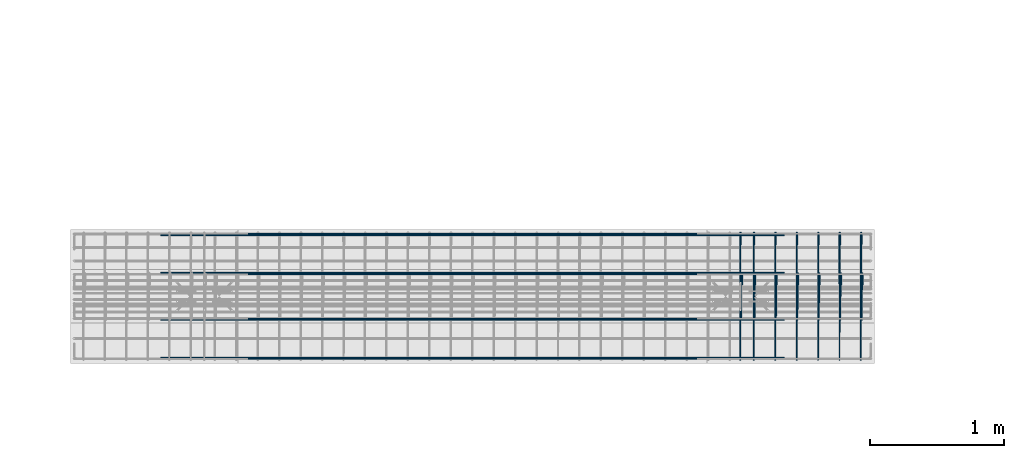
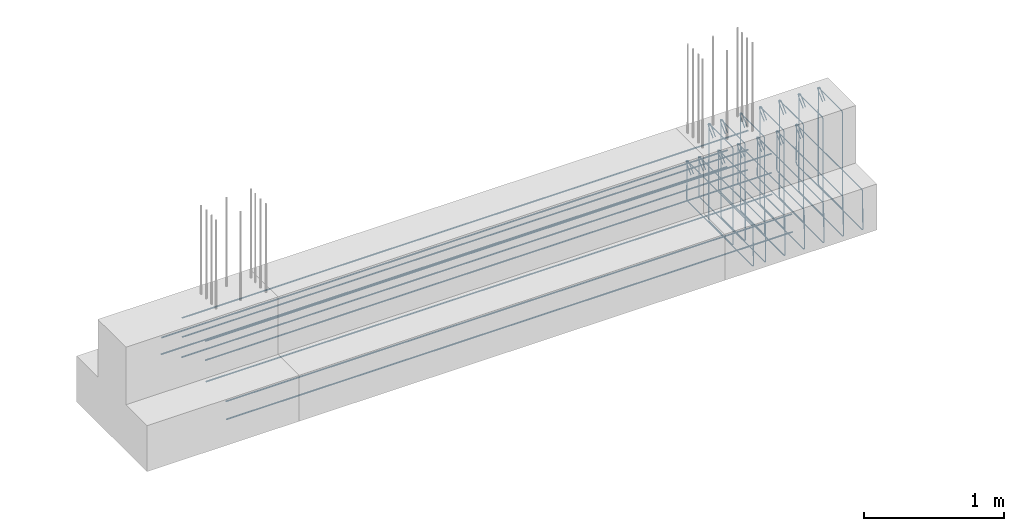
# One storey, part 21 of 23: 2 reinforcing bars.
"""IFC2X3 building model written with IfcOpenShell, lengths in metres."""

from ifc_helpers import new_model, entity, si_unit, direction, frame, origin, place, context, subcontext, project, spatial, shape, source, transform, mapped, element, save


model = new_model("IFC2X3")

# Units and contexts
model_context = context("Model", 3, precision=0.0, world=origin(), true_north=direction((0.0, 1.0)))
plan_context = context("Plan", 3, precision=0.0, world=origin(), true_north=direction((0.0, 1.0)))
body_context = subcontext(model_context, "Body", "Model", "MODEL_VIEW", scale=1.0)
ifc_project = project(units=[si_unit("LENGTHUNIT", "METRE"), si_unit("AREAUNIT", "SQUARE_METRE"), si_unit("VOLUMEUNIT", "CUBIC_METRE"), si_unit("PLANEANGLEUNIT", "RADIAN"), si_unit("THERMODYNAMICTEMPERATUREUNIT", "DEGREE_CELSIUS"), si_unit("FORCEUNIT", "NEWTON"), si_unit("MASSUNIT", "GRAM", prefix="KILO")], contexts=[model_context, plan_context])

# Site, building, storey
placement = place(None, origin())
site = spatial("IfcSite", under=ifc_project, at=placement, Name="Default Site", CompositionType="ELEMENT")
building = spatial("IfcBuilding", under=site, at=placement, Name="Default Building", CompositionType="ELEMENT")
storey_placement = place(placement, frame((0.0, 0.0, 0.0), z_axis=(1.0, 0.0, 0.0), x_axis=(0.0, 0.0, 1.0)))
storey = spatial("IfcBuildingStorey", under=building, at=storey_placement, Name="Piano 0", CompositionType="ELEMENT", Elevation=0.0)

# Reinforcing bars
shared_shape_1 = source(origin(), body_context, None, "AdvancedSweptSolid", [
    entity("IfcSweptDiskSolid", entity("IfcCompositeCurve", [entity("IfcCompositeCurveSegment", "CONTINUOUS", True, entity("IfcPolyline", [entity("IfcCartesianPoint", [0.0, 0.0, 0.0]), entity("IfcCartesianPoint", [0.0, 0.066023, 0.066023]), entity("IfcCartesianPoint", [0.000111, 0.070711, 0.077338]), entity("IfcCartesianPoint", [0.000209, 0.069135, 0.083217]), entity("IfcCartesianPoint", [0.000281, 0.064831, 0.08752]), entity("IfcCartesianPoint", [0.000307, 0.058952, 0.089095]), entity("IfcCartesianPoint", [0.000362, -0.865289, 0.089095]), entity("IfcCartesianPoint", [0.00038, -0.873289, 0.086952]), entity("IfcCartesianPoint", [0.000429, -0.879146, 0.081096]), entity("IfcCartesianPoint", [0.000496, -0.881289, 0.073096]), entity("IfcCartesianPoint", [0.003151, -0.881289, -0.246905]), entity("IfcCartesianPoint", [0.003219, -0.879146, -0.254905]), entity("IfcCartesianPoint", [0.003275, -0.873289, -0.260761]), entity("IfcCartesianPoint", [0.003302, -0.865289, -0.262905]), entity("IfcCartesianPoint", [0.004345, 0.054711, -0.262905]), entity("IfcCartesianPoint", [0.004372, 0.062711, -0.260761]), entity("IfcCartesianPoint", [0.004427, 0.068567, -0.254905]), entity("IfcCartesianPoint", [0.004496, 0.070711, -0.246905]), entity("IfcCartesianPoint", [0.007151, 0.070711, 0.073104]), entity("IfcCartesianPoint", [0.007343, 0.068572, 0.0811]), entity("IfcCartesianPoint", [0.007734, 0.062729, 0.086953]), entity("IfcCartesianPoint", [0.008221, 0.054746, 0.089095]), entity("IfcCartesianPoint", [0.008365, 0.050612, 0.087381]), entity("IfcCartesianPoint", [0.00842, -0.018385, 0.018385])]))], False), 0.004, 0.0, 0.0),
])
shared_shape_2 = source(origin(), body_context, None, "AdvancedSweptSolid", [
    entity("IfcSweptDiskSolid", entity("IfcCompositeCurve", [entity("IfcCompositeCurveSegment", "CONTINUOUS", True, entity("IfcPolyline", [entity("IfcCartesianPoint", [0.0, 0.0, 0.0]), entity("IfcCartesianPoint", [0.0, 0.066023, 0.066023]), entity("IfcCartesianPoint", [0.000111, 0.070711, 0.077338]), entity("IfcCartesianPoint", [0.000209, 0.069135, 0.083217]), entity("IfcCartesianPoint", [0.000281, 0.064831, 0.08752]), entity("IfcCartesianPoint", [0.000307, 0.058952, 0.089095]), entity("IfcCartesianPoint", [0.000362, -0.865289, 0.089095]), entity("IfcCartesianPoint", [0.00038, -0.873289, 0.086952]), entity("IfcCartesianPoint", [0.000429, -0.879146, 0.081096]), entity("IfcCartesianPoint", [0.000496, -0.881289, 0.073096]), entity("IfcCartesianPoint", [0.003151, -0.881289, -0.246905]), entity("IfcCartesianPoint", [0.003219, -0.879146, -0.254905]), entity("IfcCartesianPoint", [0.003275, -0.873289, -0.260761]), entity("IfcCartesianPoint", [0.003302, -0.865289, -0.262905]), entity("IfcCartesianPoint", [0.004345, 0.054711, -0.262905]), entity("IfcCartesianPoint", [0.004372, 0.062711, -0.260761]), entity("IfcCartesianPoint", [0.004427, 0.068567, -0.254905]), entity("IfcCartesianPoint", [0.004496, 0.070711, -0.246905]), entity("IfcCartesianPoint", [0.007151, 0.070711, 0.073104]), entity("IfcCartesianPoint", [0.007343, 0.068572, 0.0811]), entity("IfcCartesianPoint", [0.007734, 0.062729, 0.086953]), entity("IfcCartesianPoint", [0.008221, 0.054746, 0.089095]), entity("IfcCartesianPoint", [0.008365, 0.050612, 0.087381]), entity("IfcCartesianPoint", [0.00842, -0.018385, 0.018385])]))], False), 0.004, 0.0, 0.0),
])
shared_shape_3 = source(origin(), body_context, None, "AdvancedSweptSolid", [
    entity("IfcSweptDiskSolid", entity("IfcCompositeCurve", [entity("IfcCompositeCurveSegment", "CONTINUOUS", True, entity("IfcPolyline", [entity("IfcCartesianPoint", [0.0, 0.0, 0.0]), entity("IfcCartesianPoint", [0.0, 0.066023, 0.066023]), entity("IfcCartesianPoint", [0.000111, 0.070711, 0.077338]), entity("IfcCartesianPoint", [0.000209, 0.069135, 0.083217]), entity("IfcCartesianPoint", [0.000281, 0.064831, 0.08752]), entity("IfcCartesianPoint", [0.000307, 0.058952, 0.089095]), entity("IfcCartesianPoint", [0.000362, -0.865289, 0.089095]), entity("IfcCartesianPoint", [0.00038, -0.873289, 0.086952]), entity("IfcCartesianPoint", [0.000429, -0.879146, 0.081096]), entity("IfcCartesianPoint", [0.000496, -0.881289, 0.073096]), entity("IfcCartesianPoint", [0.003151, -0.881289, -0.246905]), entity("IfcCartesianPoint", [0.003219, -0.879146, -0.254905]), entity("IfcCartesianPoint", [0.003275, -0.873289, -0.260761]), entity("IfcCartesianPoint", [0.003302, -0.865289, -0.262905]), entity("IfcCartesianPoint", [0.004345, 0.054711, -0.262905]), entity("IfcCartesianPoint", [0.004372, 0.062711, -0.260761]), entity("IfcCartesianPoint", [0.004427, 0.068567, -0.254905]), entity("IfcCartesianPoint", [0.004496, 0.070711, -0.246905]), entity("IfcCartesianPoint", [0.007151, 0.070711, 0.073104]), entity("IfcCartesianPoint", [0.007343, 0.068572, 0.0811]), entity("IfcCartesianPoint", [0.007734, 0.062729, 0.086953]), entity("IfcCartesianPoint", [0.008221, 0.054746, 0.089095]), entity("IfcCartesianPoint", [0.008365, 0.050612, 0.087381]), entity("IfcCartesianPoint", [0.00842, -0.018385, 0.018385])]))], False), 0.004, 0.0, 0.0),
])
shared_shape_4 = source(origin(), body_context, None, "AdvancedSweptSolid", [
    entity("IfcSweptDiskSolid", entity("IfcCompositeCurve", [entity("IfcCompositeCurveSegment", "CONTINUOUS", True, entity("IfcPolyline", [entity("IfcCartesianPoint", [0.0, 0.0, 0.0]), entity("IfcCartesianPoint", [0.0, 0.066023, 0.066023]), entity("IfcCartesianPoint", [0.000111, 0.070711, 0.077338]), entity("IfcCartesianPoint", [0.000209, 0.069135, 0.083217]), entity("IfcCartesianPoint", [0.000281, 0.064831, 0.08752]), entity("IfcCartesianPoint", [0.000307, 0.058952, 0.089095]), entity("IfcCartesianPoint", [0.000362, -0.865289, 0.089095]), entity("IfcCartesianPoint", [0.00038, -0.873289, 0.086952]), entity("IfcCartesianPoint", [0.000429, -0.879146, 0.081096]), entity("IfcCartesianPoint", [0.000496, -0.881289, 0.073096]), entity("IfcCartesianPoint", [0.003151, -0.881289, -0.246905]), entity("IfcCartesianPoint", [0.003219, -0.879146, -0.254905]), entity("IfcCartesianPoint", [0.003275, -0.873289, -0.260761]), entity("IfcCartesianPoint", [0.003302, -0.865289, -0.262905]), entity("IfcCartesianPoint", [0.004345, 0.054711, -0.262905]), entity("IfcCartesianPoint", [0.004372, 0.062711, -0.260761]), entity("IfcCartesianPoint", [0.004427, 0.068567, -0.254905]), entity("IfcCartesianPoint", [0.004496, 0.070711, -0.246905]), entity("IfcCartesianPoint", [0.007151, 0.070711, 0.073104]), entity("IfcCartesianPoint", [0.007343, 0.068572, 0.0811]), entity("IfcCartesianPoint", [0.007734, 0.062729, 0.086953]), entity("IfcCartesianPoint", [0.008221, 0.054746, 0.089095]), entity("IfcCartesianPoint", [0.008365, 0.050612, 0.087381]), entity("IfcCartesianPoint", [0.00842, -0.018385, 0.018385])]))], False), 0.004, 0.0, 0.0),
])
shared_shape_5 = source(origin(), body_context, None, "AdvancedSweptSolid", [
    entity("IfcSweptDiskSolid", entity("IfcCompositeCurve", [entity("IfcCompositeCurveSegment", "CONTINUOUS", True, entity("IfcPolyline", [entity("IfcCartesianPoint", [0.0, 0.0, 0.0]), entity("IfcCartesianPoint", [0.0, 0.066023, 0.066023]), entity("IfcCartesianPoint", [0.000111, 0.070711, 0.077338]), entity("IfcCartesianPoint", [0.000209, 0.069135, 0.083217]), entity("IfcCartesianPoint", [0.000281, 0.064831, 0.08752]), entity("IfcCartesianPoint", [0.000307, 0.058952, 0.089095]), entity("IfcCartesianPoint", [0.000362, -0.865289, 0.089095]), entity("IfcCartesianPoint", [0.00038, -0.873289, 0.086952]), entity("IfcCartesianPoint", [0.000429, -0.879146, 0.081096]), entity("IfcCartesianPoint", [0.000496, -0.881289, 0.073096]), entity("IfcCartesianPoint", [0.003151, -0.881289, -0.246905]), entity("IfcCartesianPoint", [0.003219, -0.879146, -0.254905]), entity("IfcCartesianPoint", [0.003275, -0.873289, -0.260761]), entity("IfcCartesianPoint", [0.003302, -0.865289, -0.262905]), entity("IfcCartesianPoint", [0.004345, 0.054711, -0.262905]), entity("IfcCartesianPoint", [0.004372, 0.062711, -0.260761]), entity("IfcCartesianPoint", [0.004427, 0.068567, -0.254905]), entity("IfcCartesianPoint", [0.004496, 0.070711, -0.246905]), entity("IfcCartesianPoint", [0.007151, 0.070711, 0.073104]), entity("IfcCartesianPoint", [0.007343, 0.068572, 0.0811]), entity("IfcCartesianPoint", [0.007734, 0.062729, 0.086953]), entity("IfcCartesianPoint", [0.008221, 0.054746, 0.089095]), entity("IfcCartesianPoint", [0.008365, 0.050612, 0.087381]), entity("IfcCartesianPoint", [0.00842, -0.018385, 0.018385])]))], False), 0.004, 0.0, 0.0),
])
shared_shape_6 = source(origin(), body_context, None, "AdvancedSweptSolid", [
    entity("IfcSweptDiskSolid", entity("IfcCompositeCurve", [entity("IfcCompositeCurveSegment", "CONTINUOUS", True, entity("IfcPolyline", [entity("IfcCartesianPoint", [0.0, 0.0, 0.0]), entity("IfcCartesianPoint", [0.0, 0.066023, 0.066023]), entity("IfcCartesianPoint", [0.000111, 0.070711, 0.077338]), entity("IfcCartesianPoint", [0.000209, 0.069135, 0.083217]), entity("IfcCartesianPoint", [0.000281, 0.064831, 0.08752]), entity("IfcCartesianPoint", [0.000307, 0.058952, 0.089095]), entity("IfcCartesianPoint", [0.000362, -0.865289, 0.089095]), entity("IfcCartesianPoint", [0.00038, -0.873289, 0.086952]), entity("IfcCartesianPoint", [0.000429, -0.879146, 0.081096]), entity("IfcCartesianPoint", [0.000496, -0.881289, 0.073096]), entity("IfcCartesianPoint", [0.003151, -0.881289, -0.246905]), entity("IfcCartesianPoint", [0.003219, -0.879146, -0.254905]), entity("IfcCartesianPoint", [0.003275, -0.873289, -0.260761]), entity("IfcCartesianPoint", [0.003302, -0.865289, -0.262905]), entity("IfcCartesianPoint", [0.004345, 0.054711, -0.262905]), entity("IfcCartesianPoint", [0.004372, 0.062711, -0.260761]), entity("IfcCartesianPoint", [0.004427, 0.068567, -0.254905]), entity("IfcCartesianPoint", [0.004496, 0.070711, -0.246905]), entity("IfcCartesianPoint", [0.007151, 0.070711, 0.073104]), entity("IfcCartesianPoint", [0.007343, 0.068572, 0.0811]), entity("IfcCartesianPoint", [0.007734, 0.062729, 0.086953]), entity("IfcCartesianPoint", [0.008221, 0.054746, 0.089095]), entity("IfcCartesianPoint", [0.008365, 0.050612, 0.087381]), entity("IfcCartesianPoint", [0.00842, -0.018385, 0.018385])]))], False), 0.004, 0.0, 0.0),
])
shared_shape_7 = source(origin(), body_context, None, "AdvancedSweptSolid", [
    entity("IfcSweptDiskSolid", entity("IfcCompositeCurve", [entity("IfcCompositeCurveSegment", "CONTINUOUS", True, entity("IfcPolyline", [entity("IfcCartesianPoint", [0.0, 0.0, 0.0]), entity("IfcCartesianPoint", [0.0, 0.066023, 0.066023]), entity("IfcCartesianPoint", [0.000111, 0.070711, 0.077338]), entity("IfcCartesianPoint", [0.000209, 0.069135, 0.083217]), entity("IfcCartesianPoint", [0.000281, 0.064831, 0.08752]), entity("IfcCartesianPoint", [0.000307, 0.058952, 0.089095]), entity("IfcCartesianPoint", [0.000362, -0.865289, 0.089095]), entity("IfcCartesianPoint", [0.00038, -0.873289, 0.086952]), entity("IfcCartesianPoint", [0.000429, -0.879146, 0.081096]), entity("IfcCartesianPoint", [0.000496, -0.881289, 0.073096]), entity("IfcCartesianPoint", [0.003151, -0.881289, -0.246905]), entity("IfcCartesianPoint", [0.003219, -0.879146, -0.254905]), entity("IfcCartesianPoint", [0.003275, -0.873289, -0.260761]), entity("IfcCartesianPoint", [0.003302, -0.865289, -0.262905]), entity("IfcCartesianPoint", [0.004345, 0.054711, -0.262905]), entity("IfcCartesianPoint", [0.004372, 0.062711, -0.260761]), entity("IfcCartesianPoint", [0.004427, 0.068567, -0.254905]), entity("IfcCartesianPoint", [0.004496, 0.070711, -0.246905]), entity("IfcCartesianPoint", [0.007151, 0.070711, 0.073104]), entity("IfcCartesianPoint", [0.007343, 0.068572, 0.0811]), entity("IfcCartesianPoint", [0.007734, 0.062729, 0.086953]), entity("IfcCartesianPoint", [0.008221, 0.054746, 0.089095]), entity("IfcCartesianPoint", [0.008365, 0.050612, 0.087381]), entity("IfcCartesianPoint", [0.00842, -0.018385, 0.018385])]))], False), 0.004, 0.0, 0.0),
])
shared_shape_8 = source(origin(), body_context, None, "MappedRepresentation", [
    mapped(shared_shape_1, transform((15.996, 0.405289, -0.620095))),
    mapped(shared_shape_2, transform((16.096, 0.405289, -0.620095))),
    mapped(shared_shape_3, transform((16.256, 0.405289, -0.620095))),
    mapped(shared_shape_4, transform((16.416, 0.405289, -0.620095))),
    mapped(shared_shape_5, transform((16.576, 0.405289, -0.620095))),
    mapped(shared_shape_6, transform((16.736, 0.405289, -0.620095))),
    mapped(shared_shape_7, transform((16.896, 0.405289, -0.620095))),
])
shared_shape_9 = source(origin(), body_context, None, "AdvancedSweptSolid", [
    entity("IfcSweptDiskSolid", entity("IfcCompositeCurve", [entity("IfcCompositeCurveSegment", "CONTINUOUS", True, entity("IfcPolyline", [entity("IfcCartesianPoint", [0.0, 0.0, 0.0]), entity("IfcCartesianPoint", [0.0, 0.066023, 0.066023]), entity("IfcCartesianPoint", [0.00012, 0.070711, 0.077339]), entity("IfcCartesianPoint", [0.000226, 0.069135, 0.083217]), entity("IfcCartesianPoint", [0.000305, 0.064831, 0.08752]), entity("IfcCartesianPoint", [0.000334, 0.058952, 0.089095]), entity("IfcCartesianPoint", [0.000391, -0.265289, 0.089095]), entity("IfcCartesianPoint", [0.000395, -0.273289, 0.086952]), entity("IfcCartesianPoint", [0.000404, -0.279146, 0.081095]), entity("IfcCartesianPoint", [0.000415, -0.281289, 0.073095]), entity("IfcCartesianPoint", [0.001541, -0.281289, -0.746905]), entity("IfcCartesianPoint", [0.001569, -0.279146, -0.754905]), entity("IfcCartesianPoint", [0.001624, -0.27329, -0.760761]), entity("IfcCartesianPoint", [0.001691, -0.26529, -0.762905]), entity("IfcCartesianPoint", [0.004265, 0.054711, -0.762905]), entity("IfcCartesianPoint", [0.004332, 0.062711, -0.760761]), entity("IfcCartesianPoint", [0.004387, 0.068567, -0.754905]), entity("IfcCartesianPoint", [0.004415, 0.070711, -0.746905]), entity("IfcCartesianPoint", [0.005541, 0.070711, 0.073099]), entity("IfcCartesianPoint", [0.005878, 0.068593, 0.081097]), entity("IfcCartesianPoint", [0.006777, 0.062806, 0.086952]), entity("IfcCartesianPoint", [0.007997, 0.0549, 0.089095]), entity("IfcCartesianPoint", [0.008291, 0.052517, 0.088616]), entity("IfcCartesianPoint", [0.008395, 0.050484, 0.087254]), entity("IfcCartesianPoint", [0.008454, -0.018385, 0.018385])]))], False), 0.004, 0.0, 0.0),
])
shared_shape_10 = source(origin(), body_context, None, "AdvancedSweptSolid", [
    entity("IfcSweptDiskSolid", entity("IfcCompositeCurve", [entity("IfcCompositeCurveSegment", "CONTINUOUS", True, entity("IfcPolyline", [entity("IfcCartesianPoint", [0.0, 0.0, 0.0]), entity("IfcCartesianPoint", [0.0, 0.066023, 0.066023]), entity("IfcCartesianPoint", [0.00012, 0.070711, 0.077339]), entity("IfcCartesianPoint", [0.000226, 0.069135, 0.083217]), entity("IfcCartesianPoint", [0.000305, 0.064831, 0.08752]), entity("IfcCartesianPoint", [0.000334, 0.058952, 0.089095]), entity("IfcCartesianPoint", [0.000391, -0.265289, 0.089095]), entity("IfcCartesianPoint", [0.000395, -0.273289, 0.086952]), entity("IfcCartesianPoint", [0.000404, -0.279146, 0.081095]), entity("IfcCartesianPoint", [0.000415, -0.281289, 0.073095]), entity("IfcCartesianPoint", [0.001541, -0.281289, -0.746905]), entity("IfcCartesianPoint", [0.001569, -0.279146, -0.754905]), entity("IfcCartesianPoint", [0.001624, -0.27329, -0.760761]), entity("IfcCartesianPoint", [0.001691, -0.26529, -0.762905]), entity("IfcCartesianPoint", [0.004265, 0.054711, -0.762905]), entity("IfcCartesianPoint", [0.004332, 0.062711, -0.760761]), entity("IfcCartesianPoint", [0.004387, 0.068567, -0.754905]), entity("IfcCartesianPoint", [0.004415, 0.070711, -0.746905]), entity("IfcCartesianPoint", [0.005541, 0.070711, 0.073099]), entity("IfcCartesianPoint", [0.005878, 0.068593, 0.081097]), entity("IfcCartesianPoint", [0.006777, 0.062806, 0.086952]), entity("IfcCartesianPoint", [0.007997, 0.0549, 0.089095]), entity("IfcCartesianPoint", [0.008291, 0.052517, 0.088616]), entity("IfcCartesianPoint", [0.008395, 0.050484, 0.087254]), entity("IfcCartesianPoint", [0.008454, -0.018385, 0.018385])]))], False), 0.004, 0.0, 0.0),
])
shared_shape_11 = source(origin(), body_context, None, "AdvancedSweptSolid", [
    entity("IfcSweptDiskSolid", entity("IfcCompositeCurve", [entity("IfcCompositeCurveSegment", "CONTINUOUS", True, entity("IfcPolyline", [entity("IfcCartesianPoint", [0.0, 0.0, 0.0]), entity("IfcCartesianPoint", [0.0, 0.066023, 0.066023]), entity("IfcCartesianPoint", [0.00012, 0.070711, 0.077339]), entity("IfcCartesianPoint", [0.000226, 0.069135, 0.083217]), entity("IfcCartesianPoint", [0.000305, 0.064831, 0.08752]), entity("IfcCartesianPoint", [0.000334, 0.058952, 0.089095]), entity("IfcCartesianPoint", [0.000391, -0.265289, 0.089095]), entity("IfcCartesianPoint", [0.000395, -0.273289, 0.086952]), entity("IfcCartesianPoint", [0.000404, -0.279146, 0.081095]), entity("IfcCartesianPoint", [0.000415, -0.281289, 0.073095]), entity("IfcCartesianPoint", [0.001541, -0.281289, -0.746905]), entity("IfcCartesianPoint", [0.001569, -0.279146, -0.754905]), entity("IfcCartesianPoint", [0.001624, -0.27329, -0.760761]), entity("IfcCartesianPoint", [0.001691, -0.26529, -0.762905]), entity("IfcCartesianPoint", [0.004265, 0.054711, -0.762905]), entity("IfcCartesianPoint", [0.004332, 0.062711, -0.760761]), entity("IfcCartesianPoint", [0.004387, 0.068567, -0.754905]), entity("IfcCartesianPoint", [0.004415, 0.070711, -0.746905]), entity("IfcCartesianPoint", [0.005541, 0.070711, 0.073099]), entity("IfcCartesianPoint", [0.005878, 0.068593, 0.081097]), entity("IfcCartesianPoint", [0.006777, 0.062806, 0.086952]), entity("IfcCartesianPoint", [0.007997, 0.0549, 0.089095]), entity("IfcCartesianPoint", [0.008291, 0.052517, 0.088616]), entity("IfcCartesianPoint", [0.008395, 0.050484, 0.087254]), entity("IfcCartesianPoint", [0.008454, -0.018385, 0.018385])]))], False), 0.004, 0.0, 0.0),
])
shared_shape_12 = source(origin(), body_context, None, "AdvancedSweptSolid", [
    entity("IfcSweptDiskSolid", entity("IfcCompositeCurve", [entity("IfcCompositeCurveSegment", "CONTINUOUS", True, entity("IfcPolyline", [entity("IfcCartesianPoint", [0.0, 0.0, 0.0]), entity("IfcCartesianPoint", [0.0, 0.066023, 0.066023]), entity("IfcCartesianPoint", [0.00012, 0.070711, 0.077339]), entity("IfcCartesianPoint", [0.000226, 0.069135, 0.083217]), entity("IfcCartesianPoint", [0.000305, 0.064831, 0.08752]), entity("IfcCartesianPoint", [0.000334, 0.058952, 0.089095]), entity("IfcCartesianPoint", [0.000391, -0.265289, 0.089095]), entity("IfcCartesianPoint", [0.000395, -0.273289, 0.086952]), entity("IfcCartesianPoint", [0.000404, -0.279146, 0.081095]), entity("IfcCartesianPoint", [0.000415, -0.281289, 0.073095]), entity("IfcCartesianPoint", [0.001541, -0.281289, -0.746905]), entity("IfcCartesianPoint", [0.001569, -0.279146, -0.754905]), entity("IfcCartesianPoint", [0.001624, -0.27329, -0.760761]), entity("IfcCartesianPoint", [0.001691, -0.26529, -0.762905]), entity("IfcCartesianPoint", [0.004265, 0.054711, -0.762905]), entity("IfcCartesianPoint", [0.004332, 0.062711, -0.760761]), entity("IfcCartesianPoint", [0.004387, 0.068567, -0.754905]), entity("IfcCartesianPoint", [0.004415, 0.070711, -0.746905]), entity("IfcCartesianPoint", [0.005541, 0.070711, 0.073099]), entity("IfcCartesianPoint", [0.005878, 0.068593, 0.081097]), entity("IfcCartesianPoint", [0.006777, 0.062806, 0.086952]), entity("IfcCartesianPoint", [0.007997, 0.0549, 0.089095]), entity("IfcCartesianPoint", [0.008291, 0.052517, 0.088616]), entity("IfcCartesianPoint", [0.008395, 0.050484, 0.087254]), entity("IfcCartesianPoint", [0.008454, -0.018385, 0.018385])]))], False), 0.004, 0.0, 0.0),
])
shared_shape_13 = source(origin(), body_context, None, "AdvancedSweptSolid", [
    entity("IfcSweptDiskSolid", entity("IfcCompositeCurve", [entity("IfcCompositeCurveSegment", "CONTINUOUS", True, entity("IfcPolyline", [entity("IfcCartesianPoint", [0.0, 0.0, 0.0]), entity("IfcCartesianPoint", [0.0, 0.066023, 0.066023]), entity("IfcCartesianPoint", [0.00012, 0.070711, 0.077339]), entity("IfcCartesianPoint", [0.000226, 0.069135, 0.083217]), entity("IfcCartesianPoint", [0.000305, 0.064831, 0.08752]), entity("IfcCartesianPoint", [0.000334, 0.058952, 0.089095]), entity("IfcCartesianPoint", [0.000391, -0.265289, 0.089095]), entity("IfcCartesianPoint", [0.000395, -0.273289, 0.086952]), entity("IfcCartesianPoint", [0.000404, -0.279146, 0.081095]), entity("IfcCartesianPoint", [0.000415, -0.281289, 0.073095]), entity("IfcCartesianPoint", [0.001541, -0.281289, -0.746905]), entity("IfcCartesianPoint", [0.001569, -0.279146, -0.754905]), entity("IfcCartesianPoint", [0.001624, -0.27329, -0.760761]), entity("IfcCartesianPoint", [0.001691, -0.26529, -0.762905]), entity("IfcCartesianPoint", [0.004265, 0.054711, -0.762905]), entity("IfcCartesianPoint", [0.004332, 0.062711, -0.760761]), entity("IfcCartesianPoint", [0.004387, 0.068567, -0.754905]), entity("IfcCartesianPoint", [0.004415, 0.070711, -0.746905]), entity("IfcCartesianPoint", [0.005541, 0.070711, 0.073099]), entity("IfcCartesianPoint", [0.005878, 0.068593, 0.081097]), entity("IfcCartesianPoint", [0.006777, 0.062806, 0.086952]), entity("IfcCartesianPoint", [0.007997, 0.0549, 0.089095]), entity("IfcCartesianPoint", [0.008291, 0.052517, 0.088616]), entity("IfcCartesianPoint", [0.008395, 0.050484, 0.087254]), entity("IfcCartesianPoint", [0.008454, -0.018385, 0.018385])]))], False), 0.004, 0.0, 0.0),
])
shared_shape_14 = source(origin(), body_context, None, "AdvancedSweptSolid", [
    entity("IfcSweptDiskSolid", entity("IfcCompositeCurve", [entity("IfcCompositeCurveSegment", "CONTINUOUS", True, entity("IfcPolyline", [entity("IfcCartesianPoint", [0.0, 0.0, 0.0]), entity("IfcCartesianPoint", [0.0, 0.066023, 0.066023]), entity("IfcCartesianPoint", [0.00012, 0.070711, 0.077339]), entity("IfcCartesianPoint", [0.000226, 0.069135, 0.083217]), entity("IfcCartesianPoint", [0.000305, 0.064831, 0.08752]), entity("IfcCartesianPoint", [0.000334, 0.058952, 0.089095]), entity("IfcCartesianPoint", [0.000391, -0.265289, 0.089095]), entity("IfcCartesianPoint", [0.000395, -0.273289, 0.086952]), entity("IfcCartesianPoint", [0.000404, -0.279146, 0.081095]), entity("IfcCartesianPoint", [0.000415, -0.281289, 0.073095]), entity("IfcCartesianPoint", [0.001541, -0.281289, -0.746905]), entity("IfcCartesianPoint", [0.001569, -0.279146, -0.754905]), entity("IfcCartesianPoint", [0.001624, -0.27329, -0.760761]), entity("IfcCartesianPoint", [0.001691, -0.26529, -0.762905]), entity("IfcCartesianPoint", [0.004265, 0.054711, -0.762905]), entity("IfcCartesianPoint", [0.004332, 0.062711, -0.760761]), entity("IfcCartesianPoint", [0.004387, 0.068567, -0.754905]), entity("IfcCartesianPoint", [0.004415, 0.070711, -0.746905]), entity("IfcCartesianPoint", [0.005541, 0.070711, 0.073099]), entity("IfcCartesianPoint", [0.005878, 0.068593, 0.081097]), entity("IfcCartesianPoint", [0.006777, 0.062806, 0.086952]), entity("IfcCartesianPoint", [0.007997, 0.0549, 0.089095]), entity("IfcCartesianPoint", [0.008291, 0.052517, 0.088616]), entity("IfcCartesianPoint", [0.008395, 0.050484, 0.087254]), entity("IfcCartesianPoint", [0.008454, -0.018385, 0.018385])]))], False), 0.004, 0.0, 0.0),
])
shared_shape_15 = source(origin(), body_context, None, "AdvancedSweptSolid", [
    entity("IfcSweptDiskSolid", entity("IfcCompositeCurve", [entity("IfcCompositeCurveSegment", "CONTINUOUS", True, entity("IfcPolyline", [entity("IfcCartesianPoint", [0.0, 0.0, 0.0]), entity("IfcCartesianPoint", [0.0, 0.066023, 0.066023]), entity("IfcCartesianPoint", [0.00012, 0.070711, 0.077339]), entity("IfcCartesianPoint", [0.000226, 0.069135, 0.083217]), entity("IfcCartesianPoint", [0.000305, 0.064831, 0.08752]), entity("IfcCartesianPoint", [0.000334, 0.058952, 0.089095]), entity("IfcCartesianPoint", [0.000391, -0.265289, 0.089095]), entity("IfcCartesianPoint", [0.000395, -0.273289, 0.086952]), entity("IfcCartesianPoint", [0.000404, -0.279146, 0.081095]), entity("IfcCartesianPoint", [0.000415, -0.281289, 0.073095]), entity("IfcCartesianPoint", [0.001541, -0.281289, -0.746905]), entity("IfcCartesianPoint", [0.001569, -0.279146, -0.754905]), entity("IfcCartesianPoint", [0.001624, -0.27329, -0.760761]), entity("IfcCartesianPoint", [0.001691, -0.26529, -0.762905]), entity("IfcCartesianPoint", [0.004265, 0.054711, -0.762905]), entity("IfcCartesianPoint", [0.004332, 0.062711, -0.760761]), entity("IfcCartesianPoint", [0.004387, 0.068567, -0.754905]), entity("IfcCartesianPoint", [0.004415, 0.070711, -0.746905]), entity("IfcCartesianPoint", [0.005541, 0.070711, 0.073099]), entity("IfcCartesianPoint", [0.005878, 0.068593, 0.081097]), entity("IfcCartesianPoint", [0.006777, 0.062806, 0.086952]), entity("IfcCartesianPoint", [0.007997, 0.0549, 0.089095]), entity("IfcCartesianPoint", [0.008291, 0.052517, 0.088616]), entity("IfcCartesianPoint", [0.008395, 0.050484, 0.087254]), entity("IfcCartesianPoint", [0.008454, -0.018385, 0.018385])]))], False), 0.004, 0.0, 0.0),
])
shared_shape_16 = source(origin(), body_context, None, "MappedRepresentation", [
    mapped(shared_shape_9, transform((16.004, 0.105289, -0.120095))),
    mapped(shared_shape_10, transform((16.104, 0.105289, -0.120095))),
    mapped(shared_shape_11, transform((16.264, 0.105289, -0.120095))),
    mapped(shared_shape_12, transform((16.424, 0.105289, -0.120095))),
    mapped(shared_shape_13, transform((16.584, 0.105289, -0.120095))),
    mapped(shared_shape_14, transform((16.744, 0.105289, -0.120095))),
    mapped(shared_shape_15, transform((16.904, 0.105289, -0.120095))),
])
element("IfcReinforcingBar", 1, at=placement, inside=storey, Name="Arm Staffa; Trave:3 [Piano:0]", BarLength=38.428816, BarRole="SHEAR", BarSurface="TEXTURED", NominalDiameter=0.008, shapes=[
    shape(body_context, None, "MappedRepresentation", [mapped(shared_shape_8, transform((0.0, 0.0, 0.0))), mapped(shared_shape_16, transform((0.0, 0.0, 0.0)))]),
])
shared_shape_17 = source(origin(), body_context, None, "AdvancedSweptSolid", [
    entity("IfcSweptDiskSolid", entity("IfcCompositeCurve", [entity("IfcCompositeCurveSegment", "CONTINUOUS", True, entity("IfcPolyline", [entity("IfcCartesianPoint", [0.0, 0.0, 0.0]), entity("IfcCartesianPoint", [0.326909, 0.0, 0.0]), entity("IfcCartesianPoint", [4.326909, 0.0, 0.0]), entity("IfcCartesianPoint", [4.653818, 0.0, 0.0])]))], False), 0.006, 0.0, 0.0),
])
shared_shape_18 = source(origin(), body_context, None, "MappedRepresentation", [mapped(shared_shape_17, transform((11.673091, 0.166, -0.202667)))])
shared_shape_19 = source(origin(), body_context, None, "AdvancedSweptSolid", [
    entity("IfcSweptDiskSolid", entity("IfcCompositeCurve", [entity("IfcCompositeCurveSegment", "CONTINUOUS", True, entity("IfcPolyline", [entity("IfcCartesianPoint", [0.0, 0.0, 0.0]), entity("IfcCartesianPoint", [0.326909, 0.0, 0.0]), entity("IfcCartesianPoint", [4.326909, 0.0, 0.0]), entity("IfcCartesianPoint", [4.653818, 0.0, 0.0])]))], False), 0.006, 0.0, 0.0),
])
shared_shape_20 = source(origin(), body_context, None, "MappedRepresentation", [mapped(shared_shape_19, transform((11.673091, 0.166, -0.369333)))])
shared_shape_21 = source(origin(), body_context, None, "AdvancedSweptSolid", [
    entity("IfcSweptDiskSolid", entity("IfcCompositeCurve", [entity("IfcCompositeCurveSegment", "CONTINUOUS", True, entity("IfcPolyline", [entity("IfcCartesianPoint", [0.0, 0.0, 0.0]), entity("IfcCartesianPoint", [0.326909, 0.0, 0.0]), entity("IfcCartesianPoint", [4.326909, 0.0, 0.0]), entity("IfcCartesianPoint", [4.653818, 0.0, 0.0])]))], False), 0.006, 0.0, 0.0),
])
shared_shape_22 = source(origin(), body_context, None, "MappedRepresentation", [mapped(shared_shape_21, transform((11.673091, -0.166, -0.202667)))])
shared_shape_23 = source(origin(), body_context, None, "AdvancedSweptSolid", [
    entity("IfcSweptDiskSolid", entity("IfcCompositeCurve", [entity("IfcCompositeCurveSegment", "CONTINUOUS", True, entity("IfcPolyline", [entity("IfcCartesianPoint", [0.0, 0.0, 0.0]), entity("IfcCartesianPoint", [0.326909, 0.0, 0.0]), entity("IfcCartesianPoint", [4.326909, 0.0, 0.0]), entity("IfcCartesianPoint", [4.653818, 0.0, 0.0])]))], False), 0.006, 0.0, 0.0),
])
shared_shape_24 = source(origin(), body_context, None, "MappedRepresentation", [mapped(shared_shape_23, transform((11.673091, -0.166, -0.369333)))])
shared_shape_25 = source(origin(), body_context, None, "AdvancedSweptSolid", [
    entity("IfcSweptDiskSolid", entity("IfcCompositeCurve", [entity("IfcCompositeCurveSegment", "CONTINUOUS", True, entity("IfcPolyline", [entity("IfcCartesianPoint", [0.0, 0.0, 0.0]), entity("IfcCartesianPoint", [0.326909, 0.0, 0.0]), entity("IfcCartesianPoint", [4.326909, 0.0, 0.0]), entity("IfcCartesianPoint", [4.653818, 0.0, 0.0])]))], False), 0.006, 0.0, 0.0),
])
shared_shape_26 = source(origin(), body_context, None, "MappedRepresentation", [mapped(shared_shape_25, transform((11.673091, 0.466, -0.701)))])
shared_shape_27 = source(origin(), body_context, None, "AdvancedSweptSolid", [
    entity("IfcSweptDiskSolid", entity("IfcCompositeCurve", [entity("IfcCompositeCurveSegment", "CONTINUOUS", True, entity("IfcPolyline", [entity("IfcCartesianPoint", [0.0, 0.0, 0.0]), entity("IfcCartesianPoint", [0.326909, 0.0, 0.0]), entity("IfcCartesianPoint", [4.326909, 0.0, 0.0]), entity("IfcCartesianPoint", [4.653818, 0.0, 0.0])]))], False), 0.006, 0.0, 0.0),
])
shared_shape_28 = source(origin(), body_context, None, "MappedRepresentation", [mapped(shared_shape_27, transform((11.673091, -0.466, -0.701)))])
shared_shape_29 = source(origin(), body_context, None, "AdvancedSweptSolid", [
    entity("IfcSweptDiskSolid", entity("IfcCompositeCurve", [entity("IfcCompositeCurveSegment", "CONTINUOUS", True, entity("IfcPolyline", [entity("IfcCartesianPoint", [0.0, 0.0, 0.0]), entity("IfcCartesianPoint", [0.326909, 0.0, 0.0]), entity("IfcCartesianPoint", [4.326909, 0.0, 0.0]), entity("IfcCartesianPoint", [4.653818, 0.0, 0.0])]))], False), 0.006, 0.0, 0.0),
])
shared_shape_30 = source(origin(), body_context, None, "MappedRepresentation", [
    mapped(shared_shape_29, transform((11.673091, 0.174485, -0.550485))),
])
shared_shape_31 = source(origin(), body_context, None, "AdvancedSweptSolid", [
    entity("IfcSweptDiskSolid", entity("IfcCompositeCurve", [entity("IfcCompositeCurveSegment", "CONTINUOUS", True, entity("IfcPolyline", [entity("IfcCartesianPoint", [0.0, 0.0, 0.0]), entity("IfcCartesianPoint", [0.326909, 0.0, 0.0]), entity("IfcCartesianPoint", [4.326909, 0.0, 0.0]), entity("IfcCartesianPoint", [4.653818, 0.0, 0.0])]))], False), 0.006, 0.0, 0.0),
])
shared_shape_32 = source(origin(), body_context, None, "MappedRepresentation", [
    mapped(shared_shape_31, transform((11.673091, 0.457515, -0.550485))),
])
shared_shape_33 = source(origin(), body_context, None, "AdvancedSweptSolid", [
    entity("IfcSweptDiskSolid", entity("IfcCompositeCurve", [entity("IfcCompositeCurveSegment", "CONTINUOUS", True, entity("IfcPolyline", [entity("IfcCartesianPoint", [0.0, 0.0, 0.0]), entity("IfcCartesianPoint", [0.326909, 0.0, 0.0]), entity("IfcCartesianPoint", [4.326909, 0.0, 0.0]), entity("IfcCartesianPoint", [4.653818, 0.0, 0.0])]))], False), 0.006, 0.0, 0.0),
])
shared_shape_34 = source(origin(), body_context, None, "MappedRepresentation", [
    mapped(shared_shape_33, transform((11.673091, -0.457515, -0.550485))),
])
shared_shape_35 = source(origin(), body_context, None, "AdvancedSweptSolid", [
    entity("IfcSweptDiskSolid", entity("IfcCompositeCurve", [entity("IfcCompositeCurveSegment", "CONTINUOUS", True, entity("IfcPolyline", [entity("IfcCartesianPoint", [0.0, 0.0, 0.0]), entity("IfcCartesianPoint", [0.326909, 0.0, 0.0]), entity("IfcCartesianPoint", [4.326909, 0.0, 0.0]), entity("IfcCartesianPoint", [4.653818, 0.0, 0.0])]))], False), 0.006, 0.0, 0.0),
])
shared_shape_36 = source(origin(), body_context, None, "MappedRepresentation", [
    mapped(shared_shape_35, transform((11.673091, -0.174485, -0.550485))),
])
element("IfcReinforcingBar", 2, at=placement, inside=storey, Name="Arm Generica; Trave:1 [Piano:0]", BarLength=46.538176, BarRole="NOTDEFINED", BarSurface="TEXTURED", NominalDiameter=0.012, shapes=[
    shape(body_context, None, "MappedRepresentation", [mapped(shared_shape_18, transform((0.0, 0.0, 0.0))), mapped(shared_shape_20, transform((0.0, 0.0, 0.0))), mapped(shared_shape_22, transform((0.0, 0.0, 0.0))), mapped(shared_shape_24, transform((0.0, 0.0, 0.0))), mapped(shared_shape_26, transform((0.0, 0.0, 0.0))), mapped(shared_shape_28, transform((0.0, 0.0, 0.0))), mapped(shared_shape_30, transform((0.0, 0.0, 0.0))), mapped(shared_shape_32, transform((0.0, 0.0, 0.0))), mapped(shared_shape_34, transform((0.0, 0.0, 0.0))), mapped(shared_shape_36, transform((0.0, 0.0, 0.0)))]),
])

save(model, "model.ifc")
